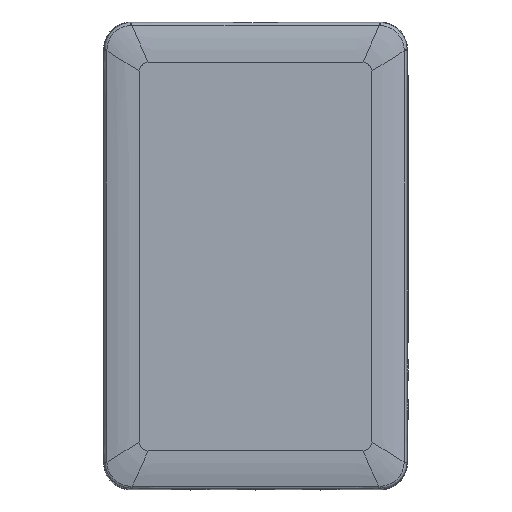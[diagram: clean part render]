
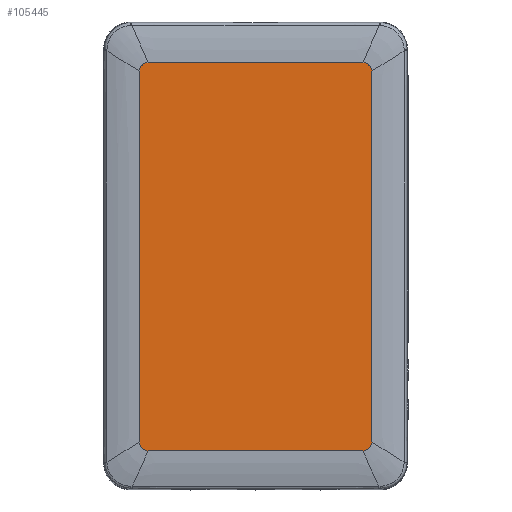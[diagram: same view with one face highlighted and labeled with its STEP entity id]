
A CAD part, top view. The second image highlights one B-rep face of the part: STEP entity #105445.
In plain terms, the highlighted planar face has unit normal (0, 0, 1).
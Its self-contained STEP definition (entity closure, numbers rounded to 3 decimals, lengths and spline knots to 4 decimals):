
#34417=DIRECTION('',(0.,-1.,0.));
#34418=VECTOR('',#34417,4.25);
#34419=CARTESIAN_POINT('',(-1.33,2.125,0.379));
#34420=LINE('',#34419,#34418);
#34421=CARTESIAN_POINT('',(-1.23,2.225,0.379));
#34422=CARTESIAN_POINT('',(-1.2463,2.225,0.379));
#34423=CARTESIAN_POINT('',(-1.2736,2.2175,0.379));
#34424=CARTESIAN_POINT('',(-1.3019,2.1971,0.379));
#34425=CARTESIAN_POINT('',(-1.3224,2.1688,0.379));
#34426=CARTESIAN_POINT('',(-1.33,2.1413,0.379));
#34427=CARTESIAN_POINT('',(-1.33,2.125,0.379));
#34429=DIRECTION('',(-1.,0.,0.));
#34430=VECTOR('',#34429,2.46);
#34431=CARTESIAN_POINT('',(1.23,2.225,0.379));
#34432=LINE('',#34431,#34430);
#34433=CARTESIAN_POINT('',(1.33,2.125,0.379));
#34434=CARTESIAN_POINT('',(1.33,2.1413,0.379));
#34435=CARTESIAN_POINT('',(1.3224,2.1688,0.379));
#34436=CARTESIAN_POINT('',(1.3019,2.1971,0.379));
#34437=CARTESIAN_POINT('',(1.2736,2.2175,0.379));
#34438=CARTESIAN_POINT('',(1.2463,2.225,0.379));
#34439=CARTESIAN_POINT('',(1.23,2.225,0.379));
#34441=DIRECTION('',(0.,1.,0.));
#34442=VECTOR('',#34441,4.25);
#34443=CARTESIAN_POINT('',(1.33,-2.125,0.379));
#34444=LINE('',#34443,#34442);
#34445=CARTESIAN_POINT('',(1.23,-2.225,0.379));
#34446=CARTESIAN_POINT('',(1.2463,-2.225,0.379));
#34447=CARTESIAN_POINT('',(1.2736,-2.2175,0.379));
#34448=CARTESIAN_POINT('',(1.3019,-2.1971,0.379));
#34449=CARTESIAN_POINT('',(1.3224,-2.1688,0.379));
#34450=CARTESIAN_POINT('',(1.33,-2.1413,0.379));
#34451=CARTESIAN_POINT('',(1.33,-2.125,0.379));
#34453=DIRECTION('',(1.,0.,0.));
#34454=VECTOR('',#34453,2.46);
#34455=CARTESIAN_POINT('',(-1.23,-2.225,0.379));
#34456=LINE('',#34455,#34454);
#34457=CARTESIAN_POINT('',(-1.33,-2.125,0.379));
#34458=CARTESIAN_POINT('',(-1.33,-2.1413,0.379));
#34459=CARTESIAN_POINT('',(-1.3224,-2.1688,0.379));
#34460=CARTESIAN_POINT('',(-1.3019,-2.1971,0.379));
#34461=CARTESIAN_POINT('',(-1.2736,-2.2175,0.379));
#34462=CARTESIAN_POINT('',(-1.2463,-2.225,0.379));
#34463=CARTESIAN_POINT('',(-1.23,-2.225,0.379));
#51002=CARTESIAN_POINT('',(-1.33,2.125,0.379));
#51003=CARTESIAN_POINT('',(-1.33,-2.125,0.379));
#51004=VERTEX_POINT('',#51002);
#51005=VERTEX_POINT('',#51003);
#51006=VERTEX_POINT('',#34463);
#51007=CARTESIAN_POINT('',(1.23,-2.225,0.379));
#51008=VERTEX_POINT('',#51007);
#51009=VERTEX_POINT('',#34451);
#51010=CARTESIAN_POINT('',(1.33,2.125,0.379));
#51011=VERTEX_POINT('',#51010);
#51012=VERTEX_POINT('',#34439);
#51013=CARTESIAN_POINT('',(-1.23,2.225,0.379));
#51014=VERTEX_POINT('',#51013);
#105430=CARTESIAN_POINT('',(0.,0.,0.379));
#105431=DIRECTION('',(0.,0.,1.));
#105432=DIRECTION('',(1.,0.,0.));
#105433=AXIS2_PLACEMENT_3D('',#105430,#105431,#105432);
#105434=PLANE('',#105433);
#105435=ORIENTED_EDGE('',*,*,#105364,.F.);
#105436=ORIENTED_EDGE('',*,*,#105011,.F.);
#105437=ORIENTED_EDGE('',*,*,#105066,.F.);
#105438=ORIENTED_EDGE('',*,*,#105106,.F.);
#105439=ORIENTED_EDGE('',*,*,#105176,.F.);
#105440=ORIENTED_EDGE('',*,*,#105216,.F.);
#105441=ORIENTED_EDGE('',*,*,#105269,.F.);
#105442=ORIENTED_EDGE('',*,*,#105308,.F.);
#105443=EDGE_LOOP('',(#105435,#105436,#105437,#105438,#105439,#105440,#105441,
#105442));
#105444=FACE_OUTER_BOUND('',#105443,.F.);
#105445=ADVANCED_FACE('',(#105444),#105434,.T.);
#34428=B_SPLINE_CURVE_WITH_KNOTS('',3,(#34421,#34422,#34423,#34424,#34425,
#34426,#34427),.UNSPECIFIED.,.F.,.F.,(4,1,1,1,4),(0.,0.25,0.5,0.75,
1.),.UNSPECIFIED.);
#34440=B_SPLINE_CURVE_WITH_KNOTS('',3,(#34433,#34434,#34435,#34436,#34437,
#34438,#34439),.UNSPECIFIED.,.F.,.F.,(4,1,1,1,4),(0.,0.25,0.5,0.75,
1.),.UNSPECIFIED.);
#34452=B_SPLINE_CURVE_WITH_KNOTS('',3,(#34445,#34446,#34447,#34448,#34449,
#34450,#34451),.UNSPECIFIED.,.F.,.F.,(4,1,1,1,4),(0.,0.25,0.5,0.75,
1.),.UNSPECIFIED.);
#34464=B_SPLINE_CURVE_WITH_KNOTS('',3,(#34457,#34458,#34459,#34460,#34461,
#34462,#34463),.UNSPECIFIED.,.F.,.F.,(4,1,1,1,4),(0.,0.25,0.5,0.75,
1.),.UNSPECIFIED.);
#105011=EDGE_CURVE('',#51014,#51004,#34428,.T.);
#105066=EDGE_CURVE('',#51012,#51014,#34432,.T.);
#105106=EDGE_CURVE('',#51011,#51012,#34440,.T.);
#105176=EDGE_CURVE('',#51009,#51011,#34444,.T.);
#105216=EDGE_CURVE('',#51008,#51009,#34452,.T.);
#105269=EDGE_CURVE('',#51006,#51008,#34456,.T.);
#105308=EDGE_CURVE('',#51005,#51006,#34464,.T.);
#105364=EDGE_CURVE('',#51004,#51005,#34420,.T.);
